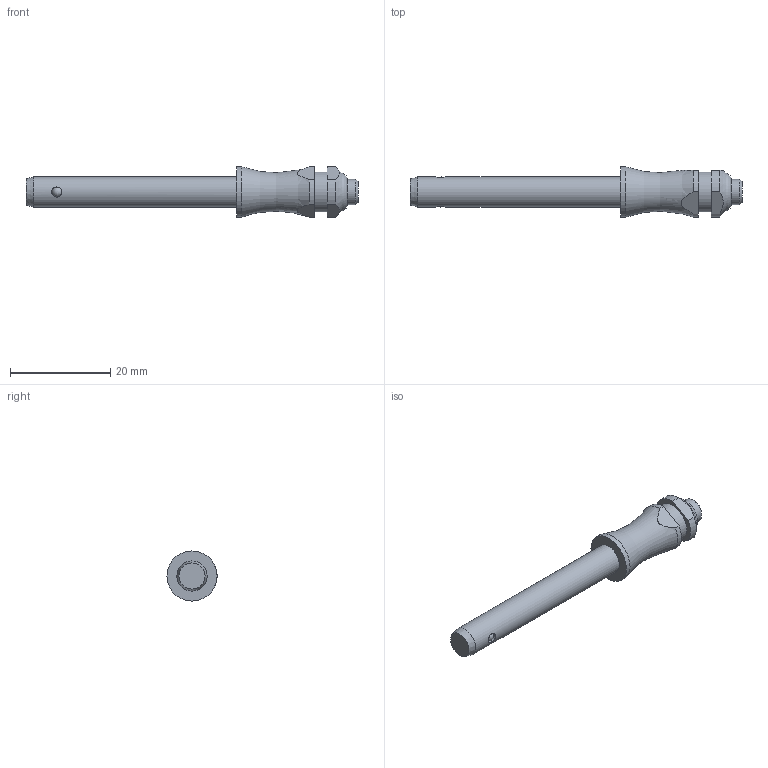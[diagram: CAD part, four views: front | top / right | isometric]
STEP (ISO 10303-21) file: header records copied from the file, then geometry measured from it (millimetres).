
FILE_DESCRIPTION( ( 'STEP AP203' ), '1' );
FILE_NAME( 'C:/Temp/Ganter_Step_05_03_2020/data/3_1/gn113_3/Stainless Steel-Ball lock pin GN 113.3-6-35 (activated).stp', '2020-03-12T08:18:18', ( 'License CC BY-ND 4.0' ), ( 'CADENAS' ), ' ', 'PARTsolutions', ' ' );
FILE_SCHEMA( ( 'CONFIG_CONTROL_DESIGN' ) );
Length unit declared in the file: millimetre
Products named in the file (1): _Stainless Steel-Ball lock pin GN 113.3-6-35 (activated)
Bounding box: 66.15 x 10 x 10 mm (x, y, z)
Volume: 2478.8 mm3; surface area: 1593.5 mm2
Topology: 1 solids, 1 shells, 31 faces, 73 edges, 46 vertices
Faces by surface type: plane 12, cylinder 12, cone 3, torus 2, sphere 2
Full cylindrical faces by diameter (mm): 2 x2, 5 x1, 6 x1, 7.9 x1, 10 x1
Entity records: 962 total; most frequent: CARTESIAN_POINT 298, DIRECTION 134, ORIENTED_EDGE 104, AXIS2_PLACEMENT_3D 58, EDGE_CURVE 52, EDGE_LOOP 48, VERTEX_POINT 40, FACE_OUTER_BOUND 39
